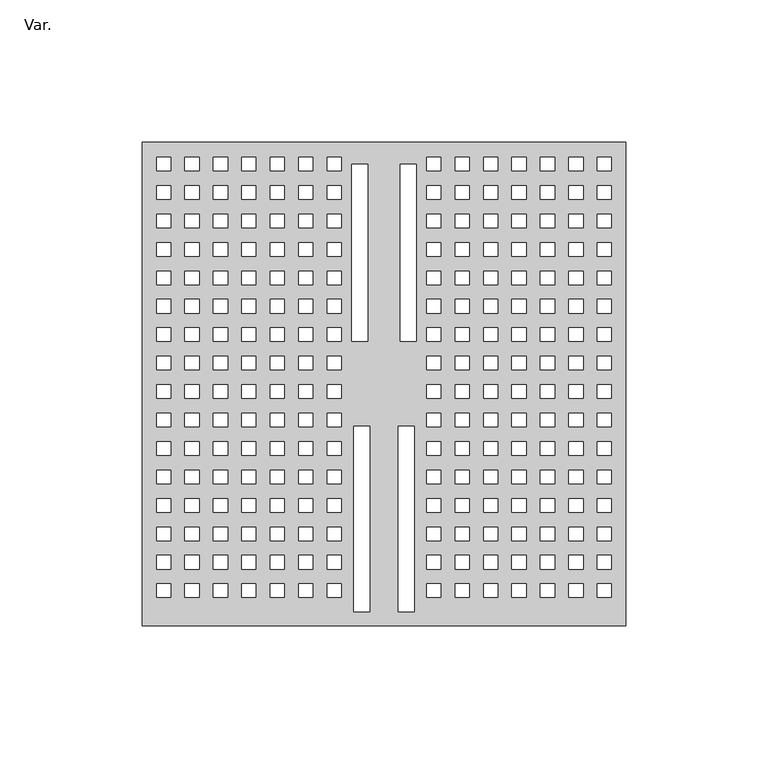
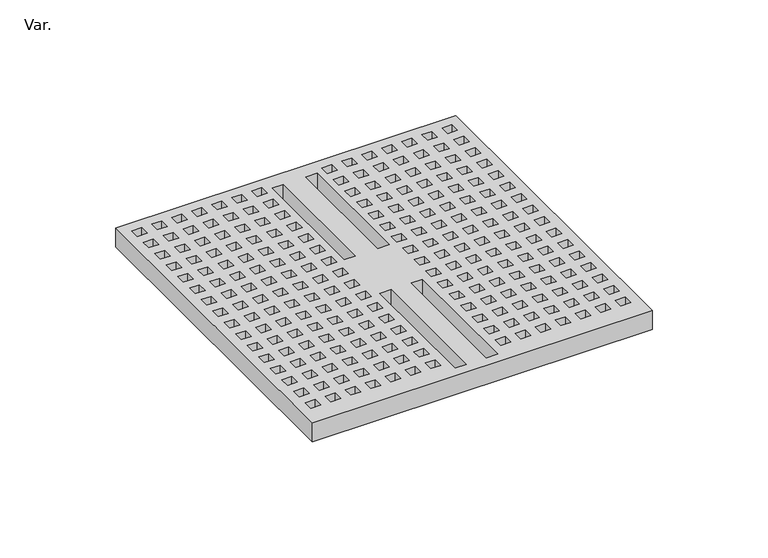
"""IFC4 building model written with IfcOpenShell, lengths in millimetres: pipe fitting geometry, PlastigamaWavin_Unionesdetubería_SanitariaRejillaVentGas20cm : Var.."""

from ifc_helpers import new_model, si_unit, origin, origin_with_axes, place, context, project, spatial, polyline, outline, extrude, source, transform, mapped, element, save


def var_29f5bc66(model_context):
    return source(origin(), model_context, "Body", "SweptSolid", [
        extrude(outline(polyline([(-85.0, 15.0), (-85.0, 185.0), (85.0, 185.0), (85.0, 15.0), (-85.0, 15.0)]), holes=[polyline([(-11.3046758, 115.0), (-5.6555417, 115.0), (-5.6555417, 177.2854204), (-11.3046758, 177.2854204), (-11.3046758, 115.0)]), polyline([(-10.6491341, 20.0), (-5.0, 20.0), (-5.0, 85.1494369), (-10.6491341, 85.1494369), (-10.6491341, 20.0)]), polyline([(5.6555417, 115.0), (11.3046758, 115.0), (11.3046758, 177.2854204), (5.6555417, 177.2854204), (5.6555417, 115.0)]), polyline([(5.0, 20.0), (10.6491341, 20.0), (10.6491341, 85.1494369), (5.0, 85.1494369), (5.0, 20.0)]), polyline([(-79.9797253, 174.9442398), (-75.0, 174.9442398), (-75.0, 179.7234156), (-79.9797253, 179.7234156), (-79.9797253, 174.9442398)]), polyline([(-69.9797253, 174.9442398), (-65.0, 174.9442398), (-65.0, 179.7234156), (-69.9797253, 179.7234156), (-69.9797253, 174.9442398)]), polyline([(-59.9797253, 174.9442398), (-55.0, 174.9442398), (-55.0, 179.7234156), (-59.9797253, 179.7234156), (-59.9797253, 174.9442398)]), polyline([(-49.9797253, 174.9442398), (-45.0, 174.9442398), (-45.0, 179.7234156), (-49.9797253, 179.7234156), (-49.9797253, 174.9442398)]), polyline([(-39.9797253, 174.9442398), (-35.0, 174.9442398), (-35.0, 179.7234156), (-39.9797253, 179.7234156), (-39.9797253, 174.9442398)]), polyline([(-29.9797253, 174.9442398), (-25.0, 174.9442398), (-25.0, 179.7234156), (-29.9797253, 179.7234156), (-29.9797253, 174.9442398)]), polyline([(-19.9797253, 174.9442398), (-15.0, 174.9442398), (-15.0, 179.7234156), (-19.9797253, 179.7234156), (-19.9797253, 174.9442398)]), polyline([(-79.9797253, 164.9442398), (-75.0, 164.9442398), (-75.0, 169.7234156), (-79.9797253, 169.7234156), (-79.9797253, 164.9442398)]), polyline([(-79.9797253, 154.9442398), (-75.0, 154.9442398), (-75.0, 159.7234156), (-79.9797253, 159.7234156), (-79.9797253, 154.9442398)]), polyline([(-79.9797253, 144.9442398), (-75.0, 144.9442398), (-75.0, 149.7234156), (-79.9797253, 149.7234156), (-79.9797253, 144.9442398)]), polyline([(-79.9797253, 134.9442398), (-75.0, 134.9442398), (-75.0, 139.7234156), (-79.9797253, 139.7234156), (-79.9797253, 134.9442398)]), polyline([(-79.9797253, 124.9442398), (-75.0, 124.9442398), (-75.0, 129.7234156), (-79.9797253, 129.7234156), (-79.9797253, 124.9442398)]), polyline([(-79.9797253, 114.9442398), (-75.0, 114.9442398), (-75.0, 119.7234156), (-79.9797253, 119.7234156), (-79.9797253, 114.9442398)]), polyline([(-79.9797253, 104.9442398), (-75.0, 104.9442398), (-75.0, 109.7234156), (-79.9797253, 109.7234156), (-79.9797253, 104.9442398)]), polyline([(-79.9797253, 94.9442398), (-75.0, 94.9442398), (-75.0, 99.7234156), (-79.9797253, 99.7234156), (-79.9797253, 94.9442398)]), polyline([(-79.9797253, 84.9442398), (-75.0, 84.9442398), (-75.0, 89.7234156), (-79.9797253, 89.7234156), (-79.9797253, 84.9442398)]), polyline([(-79.9797253, 74.9442398), (-75.0, 74.9442398), (-75.0, 79.7234156), (-79.9797253, 79.7234156), (-79.9797253, 74.9442398)]), polyline([(-79.9797253, 64.9442398), (-75.0, 64.9442398), (-75.0, 69.7234156), (-79.9797253, 69.7234156), (-79.9797253, 64.9442398)]), polyline([(-79.9797253, 54.9442398), (-75.0, 54.9442398), (-75.0, 59.7234156), (-79.9797253, 59.7234156), (-79.9797253, 54.9442398)]), polyline([(-79.9797253, 44.9442398), (-75.0, 44.9442398), (-75.0, 49.7234156), (-79.9797253, 49.7234156), (-79.9797253, 44.9442398)]), polyline([(-79.9797253, 34.9442398), (-75.0, 34.9442398), (-75.0, 39.7234156), (-79.9797253, 39.7234156), (-79.9797253, 34.9442398)]), polyline([(-79.9797253, 24.9442398), (-75.0, 24.9442398), (-75.0, 29.7234156), (-79.9797253, 29.7234156), (-79.9797253, 24.9442398)]), polyline([(-69.9797253, 164.9442398), (-65.0, 164.9442398), (-65.0, 169.7234156), (-69.9797253, 169.7234156), (-69.9797253, 164.9442398)]), polyline([(-59.9797253, 164.9442398), (-55.0, 164.9442398), (-55.0, 169.7234156), (-59.9797253, 169.7234156), (-59.9797253, 164.9442398)]), polyline([(-49.9797253, 164.9442398), (-45.0, 164.9442398), (-45.0, 169.7234156), (-49.9797253, 169.7234156), (-49.9797253, 164.9442398)]), polyline([(-39.9797253, 164.9442398), (-35.0, 164.9442398), (-35.0, 169.7234156), (-39.9797253, 169.7234156), (-39.9797253, 164.9442398)]), polyline([(-29.9797253, 164.9442398), (-25.0, 164.9442398), (-25.0, 169.7234156), (-29.9797253, 169.7234156), (-29.9797253, 164.9442398)]), polyline([(-19.9797253, 164.9442398), (-15.0, 164.9442398), (-15.0, 169.7234156), (-19.9797253, 169.7234156), (-19.9797253, 164.9442398)]), polyline([(-69.9797253, 154.9442398), (-65.0, 154.9442398), (-65.0, 159.7234156), (-69.9797253, 159.7234156), (-69.9797253, 154.9442398)]), polyline([(-59.9797253, 154.9442398), (-55.0, 154.9442398), (-55.0, 159.7234156), (-59.9797253, 159.7234156), (-59.9797253, 154.9442398)]), polyline([(-49.9797253, 154.9442398), (-45.0, 154.9442398), (-45.0, 159.7234156), (-49.9797253, 159.7234156), (-49.9797253, 154.9442398)]), polyline([(-39.9797253, 154.9442398), (-35.0, 154.9442398), (-35.0, 159.7234156), (-39.9797253, 159.7234156), (-39.9797253, 154.9442398)]), polyline([(-29.9797253, 154.9442398), (-25.0, 154.9442398), (-25.0, 159.7234156), (-29.9797253, 159.7234156), (-29.9797253, 154.9442398)]), polyline([(-19.9797253, 154.9442398), (-15.0, 154.9442398), (-15.0, 159.7234156), (-19.9797253, 159.7234156), (-19.9797253, 154.9442398)]), polyline([(-69.9797253, 144.9442398), (-65.0, 144.9442398), (-65.0, 149.7234156), (-69.9797253, 149.7234156), (-69.9797253, 144.9442398)]), polyline([(-59.9797253, 144.9442398), (-55.0, 144.9442398), (-55.0, 149.7234156), (-59.9797253, 149.7234156), (-59.9797253, 144.9442398)]), polyline([(-49.9797253, 144.9442398), (-45.0, 144.9442398), (-45.0, 149.7234156), (-49.9797253, 149.7234156), (-49.9797253, 144.9442398)]), polyline([(-39.9797253, 144.9442398), (-35.0, 144.9442398), (-35.0, 149.7234156), (-39.9797253, 149.7234156), (-39.9797253, 144.9442398)]), polyline([(-29.9797253, 144.9442398), (-25.0, 144.9442398), (-25.0, 149.7234156), (-29.9797253, 149.7234156), (-29.9797253, 144.9442398)]), polyline([(-19.9797253, 144.9442398), (-15.0, 144.9442398), (-15.0, 149.7234156), (-19.9797253, 149.7234156), (-19.9797253, 144.9442398)]), polyline([(-69.9797253, 134.9442398), (-65.0, 134.9442398), (-65.0, 139.7234156), (-69.9797253, 139.7234156), (-69.9797253, 134.9442398)]), polyline([(-59.9797253, 134.9442398), (-55.0, 134.9442398), (-55.0, 139.7234156), (-59.9797253, 139.7234156), (-59.9797253, 134.9442398)]), polyline([(-49.9797253, 134.9442398), (-45.0, 134.9442398), (-45.0, 139.7234156), (-49.9797253, 139.7234156), (-49.9797253, 134.9442398)]), polyline([(-39.9797253, 134.9442398), (-35.0, 134.9442398), (-35.0, 139.7234156), (-39.9797253, 139.7234156), (-39.9797253, 134.9442398)]), polyline([(-29.9797253, 134.9442398), (-25.0, 134.9442398), (-25.0, 139.7234156), (-29.9797253, 139.7234156), (-29.9797253, 134.9442398)]), polyline([(-19.9797253, 134.9442398), (-15.0, 134.9442398), (-15.0, 139.7234156), (-19.9797253, 139.7234156), (-19.9797253, 134.9442398)]), polyline([(-69.9797253, 124.9442398), (-65.0, 124.9442398), (-65.0, 129.7234156), (-69.9797253, 129.7234156), (-69.9797253, 124.9442398)]), polyline([(-59.9797253, 124.9442398), (-55.0, 124.9442398), (-55.0, 129.7234156), (-59.9797253, 129.7234156), (-59.9797253, 124.9442398)]), polyline([(-49.9797253, 124.9442398), (-45.0, 124.9442398), (-45.0, 129.7234156), (-49.9797253, 129.7234156), (-49.9797253, 124.9442398)]), polyline([(-39.9797253, 124.9442398), (-35.0, 124.9442398), (-35.0, 129.7234156), (-39.9797253, 129.7234156), (-39.9797253, 124.9442398)]), polyline([(-29.9797253, 124.9442398), (-25.0, 124.9442398), (-25.0, 129.7234156), (-29.9797253, 129.7234156), (-29.9797253, 124.9442398)]), polyline([(-19.9797253, 124.9442398), (-15.0, 124.9442398), (-15.0, 129.7234156), (-19.9797253, 129.7234156), (-19.9797253, 124.9442398)]), polyline([(-69.9797253, 114.9442398), (-65.0, 114.9442398), (-65.0, 119.7234156), (-69.9797253, 119.7234156), (-69.9797253, 114.9442398)]), polyline([(-59.9797253, 114.9442398), (-55.0, 114.9442398), (-55.0, 119.7234156), (-59.9797253, 119.7234156), (-59.9797253, 114.9442398)]), polyline([(-49.9797253, 114.9442398), (-45.0, 114.9442398), (-45.0, 119.7234156), (-49.9797253, 119.7234156), (-49.9797253, 114.9442398)]), polyline([(-39.9797253, 114.9442398), (-35.0, 114.9442398), (-35.0, 119.7234156), (-39.9797253, 119.7234156), (-39.9797253, 114.9442398)]), polyline([(-29.9797253, 114.9442398), (-25.0, 114.9442398), (-25.0, 119.7234156), (-29.9797253, 119.7234156), (-29.9797253, 114.9442398)]), polyline([(-19.9797253, 114.9442398), (-15.0, 114.9442398), (-15.0, 119.7234156), (-19.9797253, 119.7234156), (-19.9797253, 114.9442398)]), polyline([(-69.9797253, 104.9442398), (-65.0, 104.9442398), (-65.0, 109.7234156), (-69.9797253, 109.7234156), (-69.9797253, 104.9442398)]), polyline([(-59.9797253, 104.9442398), (-55.0, 104.9442398), (-55.0, 109.7234156), (-59.9797253, 109.7234156), (-59.9797253, 104.9442398)]), polyline([(-49.9797253, 104.9442398), (-45.0, 104.9442398), (-45.0, 109.7234156), (-49.9797253, 109.7234156), (-49.9797253, 104.9442398)]), polyline([(-39.9797253, 104.9442398), (-35.0, 104.9442398), (-35.0, 109.7234156), (-39.9797253, 109.7234156), (-39.9797253, 104.9442398)]), polyline([(-29.9797253, 104.9442398), (-25.0, 104.9442398), (-25.0, 109.7234156), (-29.9797253, 109.7234156), (-29.9797253, 104.9442398)]), polyline([(-19.9797253, 104.9442398), (-15.0, 104.9442398), (-15.0, 109.7234156), (-19.9797253, 109.7234156), (-19.9797253, 104.9442398)]), polyline([(-69.9797253, 94.9442398), (-65.0, 94.9442398), (-65.0, 99.7234156), (-69.9797253, 99.7234156), (-69.9797253, 94.9442398)]), polyline([(-59.9797253, 94.9442398), (-55.0, 94.9442398), (-55.0, 99.7234156), (-59.9797253, 99.7234156), (-59.9797253, 94.9442398)]), polyline([(-49.9797253, 94.9442398), (-45.0, 94.9442398), (-45.0, 99.7234156), (-49.9797253, 99.7234156), (-49.9797253, 94.9442398)]), polyline([(-39.9797253, 94.9442398), (-35.0, 94.9442398), (-35.0, 99.7234156), (-39.9797253, 99.7234156), (-39.9797253, 94.9442398)]), polyline([(-29.9797253, 94.9442398), (-25.0, 94.9442398), (-25.0, 99.7234156), (-29.9797253, 99.7234156), (-29.9797253, 94.9442398)]), polyline([(-19.9797253, 94.9442398), (-15.0, 94.9442398), (-15.0, 99.7234156), (-19.9797253, 99.7234156), (-19.9797253, 94.9442398)]), polyline([(-69.9797253, 84.9442398), (-65.0, 84.9442398), (-65.0, 89.7234156), (-69.9797253, 89.7234156), (-69.9797253, 84.9442398)]), polyline([(-59.9797253, 84.9442398), (-55.0, 84.9442398), (-55.0, 89.7234156), (-59.9797253, 89.7234156), (-59.9797253, 84.9442398)]), polyline([(-49.9797253, 84.9442398), (-45.0, 84.9442398), (-45.0, 89.7234156), (-49.9797253, 89.7234156), (-49.9797253, 84.9442398)]), polyline([(-39.9797253, 84.9442398), (-35.0, 84.9442398), (-35.0, 89.7234156), (-39.9797253, 89.7234156), (-39.9797253, 84.9442398)]), polyline([(-29.9797253, 84.9442398), (-25.0, 84.9442398), (-25.0, 89.7234156), (-29.9797253, 89.7234156), (-29.9797253, 84.9442398)]), polyline([(-19.9797253, 84.9442398), (-15.0, 84.9442398), (-15.0, 89.7234156), (-19.9797253, 89.7234156), (-19.9797253, 84.9442398)]), polyline([(-69.9797253, 74.9442398), (-65.0, 74.9442398), (-65.0, 79.7234156), (-69.9797253, 79.7234156), (-69.9797253, 74.9442398)]), polyline([(-59.9797253, 74.9442398), (-55.0, 74.9442398), (-55.0, 79.7234156), (-59.9797253, 79.7234156), (-59.9797253, 74.9442398)]), polyline([(-49.9797253, 74.9442398), (-45.0, 74.9442398), (-45.0, 79.7234156), (-49.9797253, 79.7234156), (-49.9797253, 74.9442398)]), polyline([(-39.9797253, 74.9442398), (-35.0, 74.9442398), (-35.0, 79.7234156), (-39.9797253, 79.7234156), (-39.9797253, 74.9442398)]), polyline([(-29.9797253, 74.9442398), (-25.0, 74.9442398), (-25.0, 79.7234156), (-29.9797253, 79.7234156), (-29.9797253, 74.9442398)]), polyline([(-19.9797253, 74.9442398), (-15.0, 74.9442398), (-15.0, 79.7234156), (-19.9797253, 79.7234156), (-19.9797253, 74.9442398)]), polyline([(-69.9797253, 64.9442398), (-65.0, 64.9442398), (-65.0, 69.7234156), (-69.9797253, 69.7234156), (-69.9797253, 64.9442398)]), polyline([(-59.9797253, 64.9442398), (-55.0, 64.9442398), (-55.0, 69.7234156), (-59.9797253, 69.7234156), (-59.9797253, 64.9442398)]), polyline([(-49.9797253, 64.9442398), (-45.0, 64.9442398), (-45.0, 69.7234156), (-49.9797253, 69.7234156), (-49.9797253, 64.9442398)]), polyline([(-39.9797253, 64.9442398), (-35.0, 64.9442398), (-35.0, 69.7234156), (-39.9797253, 69.7234156), (-39.9797253, 64.9442398)]), polyline([(-29.9797253, 64.9442398), (-25.0, 64.9442398), (-25.0, 69.7234156), (-29.9797253, 69.7234156), (-29.9797253, 64.9442398)]), polyline([(-19.9797253, 64.9442398), (-15.0, 64.9442398), (-15.0, 69.7234156), (-19.9797253, 69.7234156), (-19.9797253, 64.9442398)]), polyline([(-69.9797253, 54.9442398), (-65.0, 54.9442398), (-65.0, 59.7234156), (-69.9797253, 59.7234156), (-69.9797253, 54.9442398)]), polyline([(-59.9797253, 54.9442398), (-55.0, 54.9442398), (-55.0, 59.7234156), (-59.9797253, 59.7234156), (-59.9797253, 54.9442398)]), polyline([(-49.9797253, 54.9442398), (-45.0, 54.9442398), (-45.0, 59.7234156), (-49.9797253, 59.7234156), (-49.9797253, 54.9442398)]), polyline([(-39.9797253, 54.9442398), (-35.0, 54.9442398), (-35.0, 59.7234156), (-39.9797253, 59.7234156), (-39.9797253, 54.9442398)]), polyline([(-29.9797253, 54.9442398), (-25.0, 54.9442398), (-25.0, 59.7234156), (-29.9797253, 59.7234156), (-29.9797253, 54.9442398)]), polyline([(-19.9797253, 54.9442398), (-15.0, 54.9442398), (-15.0, 59.7234156), (-19.9797253, 59.7234156), (-19.9797253, 54.9442398)]), polyline([(-69.9797253, 44.9442398), (-65.0, 44.9442398), (-65.0, 49.7234156), (-69.9797253, 49.7234156), (-69.9797253, 44.9442398)]), polyline([(-59.9797253, 44.9442398), (-55.0, 44.9442398), (-55.0, 49.7234156), (-59.9797253, 49.7234156), (-59.9797253, 44.9442398)]), polyline([(-49.9797253, 44.9442398), (-45.0, 44.9442398), (-45.0, 49.7234156), (-49.9797253, 49.7234156), (-49.9797253, 44.9442398)]), polyline([(-39.9797253, 44.9442398), (-35.0, 44.9442398), (-35.0, 49.7234156), (-39.9797253, 49.7234156), (-39.9797253, 44.9442398)]), polyline([(-29.9797253, 44.9442398), (-25.0, 44.9442398), (-25.0, 49.7234156), (-29.9797253, 49.7234156), (-29.9797253, 44.9442398)]), polyline([(-19.9797253, 44.9442398), (-15.0, 44.9442398), (-15.0, 49.7234156), (-19.9797253, 49.7234156), (-19.9797253, 44.9442398)]), polyline([(-69.9797253, 34.9442398), (-65.0, 34.9442398), (-65.0, 39.7234156), (-69.9797253, 39.7234156), (-69.9797253, 34.9442398)]), polyline([(-59.9797253, 34.9442398), (-55.0, 34.9442398), (-55.0, 39.7234156), (-59.9797253, 39.7234156), (-59.9797253, 34.9442398)]), polyline([(-49.9797253, 34.9442398), (-45.0, 34.9442398), (-45.0, 39.7234156), (-49.9797253, 39.7234156), (-49.9797253, 34.9442398)]), polyline([(-39.9797253, 34.9442398), (-35.0, 34.9442398), (-35.0, 39.7234156), (-39.9797253, 39.7234156), (-39.9797253, 34.9442398)]), polyline([(-29.9797253, 34.9442398), (-25.0, 34.9442398), (-25.0, 39.7234156), (-29.9797253, 39.7234156), (-29.9797253, 34.9442398)]), polyline([(-19.9797253, 34.9442398), (-15.0, 34.9442398), (-15.0, 39.7234156), (-19.9797253, 39.7234156), (-19.9797253, 34.9442398)]), polyline([(-69.9797253, 24.9442398), (-65.0, 24.9442398), (-65.0, 29.7234156), (-69.9797253, 29.7234156), (-69.9797253, 24.9442398)]), polyline([(-59.9797253, 24.9442398), (-55.0, 24.9442398), (-55.0, 29.7234156), (-59.9797253, 29.7234156), (-59.9797253, 24.9442398)]), polyline([(-49.9797253, 24.9442398), (-45.0, 24.9442398), (-45.0, 29.7234156), (-49.9797253, 29.7234156), (-49.9797253, 24.9442398)]), polyline([(-39.9797253, 24.9442398), (-35.0, 24.9442398), (-35.0, 29.7234156), (-39.9797253, 29.7234156), (-39.9797253, 24.9442398)]), polyline([(-29.9797253, 24.9442398), (-25.0, 24.9442398), (-25.0, 29.7234156), (-29.9797253, 29.7234156), (-29.9797253, 24.9442398)]), polyline([(-19.9797253, 24.9442398), (-15.0, 24.9442398), (-15.0, 29.7234156), (-19.9797253, 29.7234156), (-19.9797253, 24.9442398)]), polyline([(75.0, 174.9442398), (79.9797253, 174.9442398), (79.9797253, 179.7234156), (75.0, 179.7234156), (75.0, 174.9442398)]), polyline([(65.0, 174.9442398), (69.9797253, 174.9442398), (69.9797253, 179.7234156), (65.0, 179.7234156), (65.0, 174.9442398)]), polyline([(55.0, 174.9442398), (59.9797253, 174.9442398), (59.9797253, 179.7234156), (55.0, 179.7234156), (55.0, 174.9442398)]), polyline([(45.0, 174.9442398), (49.9797253, 174.9442398), (49.9797253, 179.7234156), (45.0, 179.7234156), (45.0, 174.9442398)]), polyline([(35.0, 174.9442398), (39.9797253, 174.9442398), (39.9797253, 179.7234156), (35.0, 179.7234156), (35.0, 174.9442398)]), polyline([(25.0, 174.9442398), (29.9797253, 174.9442398), (29.9797253, 179.7234156), (25.0, 179.7234156), (25.0, 174.9442398)]), polyline([(15.0, 174.9442398), (19.9797253, 174.9442398), (19.9797253, 179.7234156), (15.0, 179.7234156), (15.0, 174.9442398)]), polyline([(75.0, 164.9442398), (79.9797253, 164.9442398), (79.9797253, 169.7234156), (75.0, 169.7234156), (75.0, 164.9442398)]), polyline([(75.0, 154.9442398), (79.9797253, 154.9442398), (79.9797253, 159.7234156), (75.0, 159.7234156), (75.0, 154.9442398)]), polyline([(75.0, 144.9442398), (79.9797253, 144.9442398), (79.9797253, 149.7234156), (75.0, 149.7234156), (75.0, 144.9442398)]), polyline([(75.0, 134.9442398), (79.9797253, 134.9442398), (79.9797253, 139.7234156), (75.0, 139.7234156), (75.0, 134.9442398)]), polyline([(75.0, 124.9442398), (79.9797253, 124.9442398), (79.9797253, 129.7234156), (75.0, 129.7234156), (75.0, 124.9442398)]), polyline([(75.0, 114.9442398), (79.9797253, 114.9442398), (79.9797253, 119.7234156), (75.0, 119.7234156), (75.0, 114.9442398)]), polyline([(75.0, 104.9442398), (79.9797253, 104.9442398), (79.9797253, 109.7234156), (75.0, 109.7234156), (75.0, 104.9442398)]), polyline([(75.0, 94.9442398), (79.9797253, 94.9442398), (79.9797253, 99.7234156), (75.0, 99.7234156), (75.0, 94.9442398)]), polyline([(75.0, 84.9442398), (79.9797253, 84.9442398), (79.9797253, 89.7234156), (75.0, 89.7234156), (75.0, 84.9442398)]), polyline([(75.0, 74.9442398), (79.9797253, 74.9442398), (79.9797253, 79.7234156), (75.0, 79.7234156), (75.0, 74.9442398)]), polyline([(75.0, 64.9442398), (79.9797253, 64.9442398), (79.9797253, 69.7234156), (75.0, 69.7234156), (75.0, 64.9442398)]), polyline([(75.0, 54.9442398), (79.9797253, 54.9442398), (79.9797253, 59.7234156), (75.0, 59.7234156), (75.0, 54.9442398)]), polyline([(75.0, 44.9442398), (79.9797253, 44.9442398), (79.9797253, 49.7234156), (75.0, 49.7234156), (75.0, 44.9442398)]), polyline([(75.0, 34.9442398), (79.9797253, 34.9442398), (79.9797253, 39.7234156), (75.0, 39.7234156), (75.0, 34.9442398)]), polyline([(75.0, 24.9442398), (79.9797253, 24.9442398), (79.9797253, 29.7234156), (75.0, 29.7234156), (75.0, 24.9442398)]), polyline([(65.0, 164.9442398), (69.9797253, 164.9442398), (69.9797253, 169.7234156), (65.0, 169.7234156), (65.0, 164.9442398)]), polyline([(55.0, 164.9442398), (59.9797253, 164.9442398), (59.9797253, 169.7234156), (55.0, 169.7234156), (55.0, 164.9442398)]), polyline([(45.0, 164.9442398), (49.9797253, 164.9442398), (49.9797253, 169.7234156), (45.0, 169.7234156), (45.0, 164.9442398)]), polyline([(35.0, 164.9442398), (39.9797253, 164.9442398), (39.9797253, 169.7234156), (35.0, 169.7234156), (35.0, 164.9442398)]), polyline([(25.0, 164.9442398), (29.9797253, 164.9442398), (29.9797253, 169.7234156), (25.0, 169.7234156), (25.0, 164.9442398)]), polyline([(15.0, 164.9442398), (19.9797253, 164.9442398), (19.9797253, 169.7234156), (15.0, 169.7234156), (15.0, 164.9442398)]), polyline([(65.0, 154.9442398), (69.9797253, 154.9442398), (69.9797253, 159.7234156), (65.0, 159.7234156), (65.0, 154.9442398)]), polyline([(55.0, 154.9442398), (59.9797253, 154.9442398), (59.9797253, 159.7234156), (55.0, 159.7234156), (55.0, 154.9442398)]), polyline([(45.0, 154.9442398), (49.9797253, 154.9442398), (49.9797253, 159.7234156), (45.0, 159.7234156), (45.0, 154.9442398)]), polyline([(35.0, 154.9442398), (39.9797253, 154.9442398), (39.9797253, 159.7234156), (35.0, 159.7234156), (35.0, 154.9442398)]), polyline([(25.0, 154.9442398), (29.9797253, 154.9442398), (29.9797253, 159.7234156), (25.0, 159.7234156), (25.0, 154.9442398)]), polyline([(15.0, 154.9442398), (19.9797253, 154.9442398), (19.9797253, 159.7234156), (15.0, 159.7234156), (15.0, 154.9442398)]), polyline([(65.0, 144.9442398), (69.9797253, 144.9442398), (69.9797253, 149.7234156), (65.0, 149.7234156), (65.0, 144.9442398)]), polyline([(55.0, 144.9442398), (59.9797253, 144.9442398), (59.9797253, 149.7234156), (55.0, 149.7234156), (55.0, 144.9442398)]), polyline([(45.0, 144.9442398), (49.9797253, 144.9442398), (49.9797253, 149.7234156), (45.0, 149.7234156), (45.0, 144.9442398)]), polyline([(35.0, 144.9442398), (39.9797253, 144.9442398), (39.9797253, 149.7234156), (35.0, 149.7234156), (35.0, 144.9442398)]), polyline([(25.0, 144.9442398), (29.9797253, 144.9442398), (29.9797253, 149.7234156), (25.0, 149.7234156), (25.0, 144.9442398)]), polyline([(15.0, 144.9442398), (19.9797253, 144.9442398), (19.9797253, 149.7234156), (15.0, 149.7234156), (15.0, 144.9442398)]), polyline([(65.0, 134.9442398), (69.9797253, 134.9442398), (69.9797253, 139.7234156), (65.0, 139.7234156), (65.0, 134.9442398)]), polyline([(55.0, 134.9442398), (59.9797253, 134.9442398), (59.9797253, 139.7234156), (55.0, 139.7234156), (55.0, 134.9442398)]), polyline([(45.0, 134.9442398), (49.9797253, 134.9442398), (49.9797253, 139.7234156), (45.0, 139.7234156), (45.0, 134.9442398)]), polyline([(35.0, 134.9442398), (39.9797253, 134.9442398), (39.9797253, 139.7234156), (35.0, 139.7234156), (35.0, 134.9442398)]), polyline([(25.0, 134.9442398), (29.9797253, 134.9442398), (29.9797253, 139.7234156), (25.0, 139.7234156), (25.0, 134.9442398)]), polyline([(15.0, 134.9442398), (19.9797253, 134.9442398), (19.9797253, 139.7234156), (15.0, 139.7234156), (15.0, 134.9442398)]), polyline([(65.0, 124.9442398), (69.9797253, 124.9442398), (69.9797253, 129.7234156), (65.0, 129.7234156), (65.0, 124.9442398)]), polyline([(55.0, 124.9442398), (59.9797253, 124.9442398), (59.9797253, 129.7234156), (55.0, 129.7234156), (55.0, 124.9442398)]), polyline([(45.0, 124.9442398), (49.9797253, 124.9442398), (49.9797253, 129.7234156), (45.0, 129.7234156), (45.0, 124.9442398)]), polyline([(35.0, 124.9442398), (39.9797253, 124.9442398), (39.9797253, 129.7234156), (35.0, 129.7234156), (35.0, 124.9442398)]), polyline([(25.0, 124.9442398), (29.9797253, 124.9442398), (29.9797253, 129.7234156), (25.0, 129.7234156), (25.0, 124.9442398)]), polyline([(15.0, 124.9442398), (19.9797253, 124.9442398), (19.9797253, 129.7234156), (15.0, 129.7234156), (15.0, 124.9442398)]), polyline([(65.0, 114.9442398), (69.9797253, 114.9442398), (69.9797253, 119.7234156), (65.0, 119.7234156), (65.0, 114.9442398)]), polyline([(55.0, 114.9442398), (59.9797253, 114.9442398), (59.9797253, 119.7234156), (55.0, 119.7234156), (55.0, 114.9442398)]), polyline([(45.0, 114.9442398), (49.9797253, 114.9442398), (49.9797253, 119.7234156), (45.0, 119.7234156), (45.0, 114.9442398)]), polyline([(35.0, 114.9442398), (39.9797253, 114.9442398), (39.9797253, 119.7234156), (35.0, 119.7234156), (35.0, 114.9442398)]), polyline([(25.0, 114.9442398), (29.9797253, 114.9442398), (29.9797253, 119.7234156), (25.0, 119.7234156), (25.0, 114.9442398)]), polyline([(15.0, 114.9442398), (19.9797253, 114.9442398), (19.9797253, 119.7234156), (15.0, 119.7234156), (15.0, 114.9442398)]), polyline([(65.0, 104.9442398), (69.9797253, 104.9442398), (69.9797253, 109.7234156), (65.0, 109.7234156), (65.0, 104.9442398)]), polyline([(55.0, 104.9442398), (59.9797253, 104.9442398), (59.9797253, 109.7234156), (55.0, 109.7234156), (55.0, 104.9442398)]), polyline([(45.0, 104.9442398), (49.9797253, 104.9442398), (49.9797253, 109.7234156), (45.0, 109.7234156), (45.0, 104.9442398)]), polyline([(35.0, 104.9442398), (39.9797253, 104.9442398), (39.9797253, 109.7234156), (35.0, 109.7234156), (35.0, 104.9442398)]), polyline([(25.0, 104.9442398), (29.9797253, 104.9442398), (29.9797253, 109.7234156), (25.0, 109.7234156), (25.0, 104.9442398)]), polyline([(15.0, 104.9442398), (19.9797253, 104.9442398), (19.9797253, 109.7234156), (15.0, 109.7234156), (15.0, 104.9442398)]), polyline([(65.0, 94.9442398), (69.9797253, 94.9442398), (69.9797253, 99.7234156), (65.0, 99.7234156), (65.0, 94.9442398)]), polyline([(55.0, 94.9442398), (59.9797253, 94.9442398), (59.9797253, 99.7234156), (55.0, 99.7234156), (55.0, 94.9442398)]), polyline([(45.0, 94.9442398), (49.9797253, 94.9442398), (49.9797253, 99.7234156), (45.0, 99.7234156), (45.0, 94.9442398)]), polyline([(35.0, 94.9442398), (39.9797253, 94.9442398), (39.9797253, 99.7234156), (35.0, 99.7234156), (35.0, 94.9442398)]), polyline([(25.0, 94.9442398), (29.9797253, 94.9442398), (29.9797253, 99.7234156), (25.0, 99.7234156), (25.0, 94.9442398)]), polyline([(15.0, 94.9442398), (19.9797253, 94.9442398), (19.9797253, 99.7234156), (15.0, 99.7234156), (15.0, 94.9442398)]), polyline([(65.0, 84.9442398), (69.9797253, 84.9442398), (69.9797253, 89.7234156), (65.0, 89.7234156), (65.0, 84.9442398)]), polyline([(55.0, 84.9442398), (59.9797253, 84.9442398), (59.9797253, 89.7234156), (55.0, 89.7234156), (55.0, 84.9442398)]), polyline([(45.0, 84.9442398), (49.9797253, 84.9442398), (49.9797253, 89.7234156), (45.0, 89.7234156), (45.0, 84.9442398)]), polyline([(35.0, 84.9442398), (39.9797253, 84.9442398), (39.9797253, 89.7234156), (35.0, 89.7234156), (35.0, 84.9442398)]), polyline([(25.0, 84.9442398), (29.9797253, 84.9442398), (29.9797253, 89.7234156), (25.0, 89.7234156), (25.0, 84.9442398)]), polyline([(15.0, 84.9442398), (19.9797253, 84.9442398), (19.9797253, 89.7234156), (15.0, 89.7234156), (15.0, 84.9442398)]), polyline([(65.0, 74.9442398), (69.9797253, 74.9442398), (69.9797253, 79.7234156), (65.0, 79.7234156), (65.0, 74.9442398)]), polyline([(55.0, 74.9442398), (59.9797253, 74.9442398), (59.9797253, 79.7234156), (55.0, 79.7234156), (55.0, 74.9442398)]), polyline([(45.0, 74.9442398), (49.9797253, 74.9442398), (49.9797253, 79.7234156), (45.0, 79.7234156), (45.0, 74.9442398)]), polyline([(35.0, 74.9442398), (39.9797253, 74.9442398), (39.9797253, 79.7234156), (35.0, 79.7234156), (35.0, 74.9442398)]), polyline([(25.0, 74.9442398), (29.9797253, 74.9442398), (29.9797253, 79.7234156), (25.0, 79.7234156), (25.0, 74.9442398)]), polyline([(15.0, 74.9442398), (19.9797253, 74.9442398), (19.9797253, 79.7234156), (15.0, 79.7234156), (15.0, 74.9442398)]), polyline([(65.0, 64.9442398), (69.9797253, 64.9442398), (69.9797253, 69.7234156), (65.0, 69.7234156), (65.0, 64.9442398)]), polyline([(55.0, 64.9442398), (59.9797253, 64.9442398), (59.9797253, 69.7234156), (55.0, 69.7234156), (55.0, 64.9442398)]), polyline([(45.0, 64.9442398), (49.9797253, 64.9442398), (49.9797253, 69.7234156), (45.0, 69.7234156), (45.0, 64.9442398)]), polyline([(35.0, 64.9442398), (39.9797253, 64.9442398), (39.9797253, 69.7234156), (35.0, 69.7234156), (35.0, 64.9442398)]), polyline([(25.0, 64.9442398), (29.9797253, 64.9442398), (29.9797253, 69.7234156), (25.0, 69.7234156), (25.0, 64.9442398)]), polyline([(15.0, 64.9442398), (19.9797253, 64.9442398), (19.9797253, 69.7234156), (15.0, 69.7234156), (15.0, 64.9442398)]), polyline([(65.0, 54.9442398), (69.9797253, 54.9442398), (69.9797253, 59.7234156), (65.0, 59.7234156), (65.0, 54.9442398)]), polyline([(55.0, 54.9442398), (59.9797253, 54.9442398), (59.9797253, 59.7234156), (55.0, 59.7234156), (55.0, 54.9442398)]), polyline([(45.0, 54.9442398), (49.9797253, 54.9442398), (49.9797253, 59.7234156), (45.0, 59.7234156), (45.0, 54.9442398)]), polyline([(35.0, 54.9442398), (39.9797253, 54.9442398), (39.9797253, 59.7234156), (35.0, 59.7234156), (35.0, 54.9442398)]), polyline([(25.0, 54.9442398), (29.9797253, 54.9442398), (29.9797253, 59.7234156), (25.0, 59.7234156), (25.0, 54.9442398)]), polyline([(15.0, 54.9442398), (19.9797253, 54.9442398), (19.9797253, 59.7234156), (15.0, 59.7234156), (15.0, 54.9442398)]), polyline([(65.0, 44.9442398), (69.9797253, 44.9442398), (69.9797253, 49.7234156), (65.0, 49.7234156), (65.0, 44.9442398)]), polyline([(55.0, 44.9442398), (59.9797253, 44.9442398), (59.9797253, 49.7234156), (55.0, 49.7234156), (55.0, 44.9442398)]), polyline([(45.0, 44.9442398), (49.9797253, 44.9442398), (49.9797253, 49.7234156), (45.0, 49.7234156), (45.0, 44.9442398)]), polyline([(35.0, 44.9442398), (39.9797253, 44.9442398), (39.9797253, 49.7234156), (35.0, 49.7234156), (35.0, 44.9442398)]), polyline([(25.0, 44.9442398), (29.9797253, 44.9442398), (29.9797253, 49.7234156), (25.0, 49.7234156), (25.0, 44.9442398)]), polyline([(15.0, 44.9442398), (19.9797253, 44.9442398), (19.9797253, 49.7234156), (15.0, 49.7234156), (15.0, 44.9442398)]), polyline([(65.0, 34.9442398), (69.9797253, 34.9442398), (69.9797253, 39.7234156), (65.0, 39.7234156), (65.0, 34.9442398)]), polyline([(55.0, 34.9442398), (59.9797253, 34.9442398), (59.9797253, 39.7234156), (55.0, 39.7234156), (55.0, 34.9442398)]), polyline([(45.0, 34.9442398), (49.9797253, 34.9442398), (49.9797253, 39.7234156), (45.0, 39.7234156), (45.0, 34.9442398)]), polyline([(35.0, 34.9442398), (39.9797253, 34.9442398), (39.9797253, 39.7234156), (35.0, 39.7234156), (35.0, 34.9442398)]), polyline([(25.0, 34.9442398), (29.9797253, 34.9442398), (29.9797253, 39.7234156), (25.0, 39.7234156), (25.0, 34.9442398)]), polyline([(15.0, 34.9442398), (19.9797253, 34.9442398), (19.9797253, 39.7234156), (15.0, 39.7234156), (15.0, 34.9442398)]), polyline([(65.0, 24.9442398), (69.9797253, 24.9442398), (69.9797253, 29.7234156), (65.0, 29.7234156), (65.0, 24.9442398)]), polyline([(55.0, 24.9442398), (59.9797253, 24.9442398), (59.9797253, 29.7234156), (55.0, 29.7234156), (55.0, 24.9442398)]), polyline([(45.0, 24.9442398), (49.9797253, 24.9442398), (49.9797253, 29.7234156), (45.0, 29.7234156), (45.0, 24.9442398)]), polyline([(35.0, 24.9442398), (39.9797253, 24.9442398), (39.9797253, 29.7234156), (35.0, 29.7234156), (35.0, 24.9442398)]), polyline([(25.0, 24.9442398), (29.9797253, 24.9442398), (29.9797253, 29.7234156), (25.0, 29.7234156), (25.0, 24.9442398)]), polyline([(15.0, 24.9442398), (19.9797253, 24.9442398), (19.9797253, 29.7234156), (15.0, 29.7234156), (15.0, 24.9442398)])]), origin_with_axes(), (0.0, 0.0, 1.0), 10.0),
    ])


if __name__ == "__main__":
    model = new_model("IFC4")
    model_context = context("Model", 3, world=origin())
    ifc_project = project(units=[si_unit("LENGTHUNIT", "METRE", prefix="MILLI")], contexts=[model_context])
    site = spatial("IfcSite", under=ifc_project)
    building = spatial("IfcBuilding", under=site)
    placement = place(None, origin())
    var_shape = var_29f5bc66(model_context)
    element("IfcPipeFitting", 1, ObjectType="PlastigamaWavin_Unionesdetubería_SanitariaRejillaVentGas20cm : Var.", at=placement, inside=building, context=model_context, shape_type="MappedRepresentation", body=[
        mapped(var_shape, transform((0.0, 0.0, 0.0), x_axis=(1.0, 0.0, 0.0), y_axis=(0.0, 1.0, 0.0), z_axis=(0.0, 0.0, 1.0))),
    ])
    save(model, "model.ifc")
